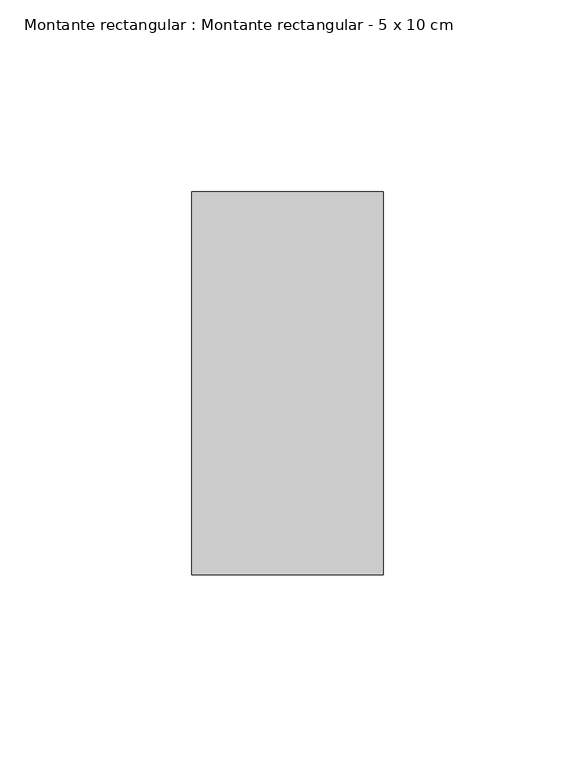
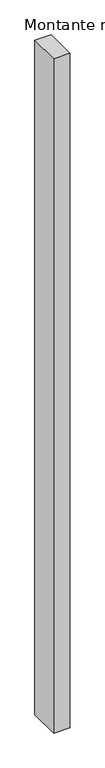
"""IFC4 building model written with IfcOpenShell, lengths in millimetres: member geometry, Montante rectangular : Montante rectangular - 5 x 10 cm."""

from ifc_helpers import new_model, si_unit, frame, origin, place, context, project, spatial, polyline, outline, extrude, source, transform, mapped, element, save


def montante_rectangular_montante_rectangular_5_x_10_cm_e7dd39f4(model_context):
    return source(origin(), model_context, "Body", "SweptSolid", [
        extrude(outline(polyline([(-50.0, 50.0), (0.0, 50.0), (0.0, -50.0), (-50.0, -50.0), (-50.0, 50.0)])), frame((0.0, 0.0, -2200.0), z_axis=(0.0, 0.0, 1.0), x_axis=(1.0, 0.0, 0.0)), (0.0, 0.0, 1.0), 2200.0),
    ])


if __name__ == "__main__":
    model = new_model("IFC4")
    model_context = context("Model", 3, world=origin())
    ifc_project = project(units=[si_unit("LENGTHUNIT", "METRE", prefix="MILLI")], contexts=[model_context])
    site = spatial("IfcSite", under=ifc_project)
    building = spatial("IfcBuilding", under=site)
    placement = place(None, origin())
    montante_rectangular_montante_rectangular_5_x_10_cm_shape = montante_rectangular_montante_rectangular_5_x_10_cm_e7dd39f4(model_context)
    element("IfcMember", 1, ObjectType="Montante rectangular : Montante rectangular - 5 x 10 cm", at=placement, inside=building, context=model_context, shape_type="MappedRepresentation", body=[
        mapped(montante_rectangular_montante_rectangular_5_x_10_cm_shape, transform((0.0, 0.0, 0.0), x_axis=(1.0, 0.0, 0.0), y_axis=(0.0, 1.0, 0.0), z_axis=(0.0, 0.0, 1.0))),
    ])
    save(model, "model.ifc")
